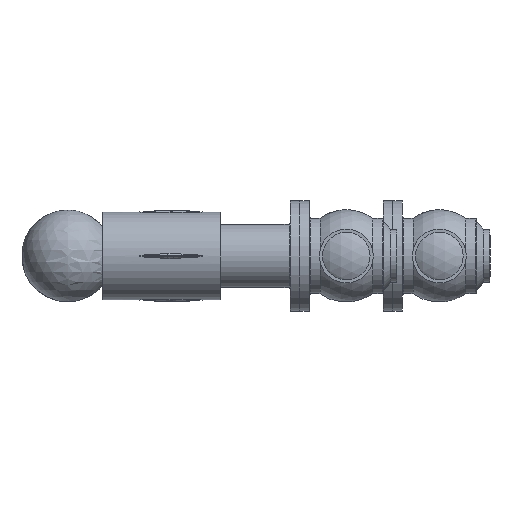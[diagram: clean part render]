
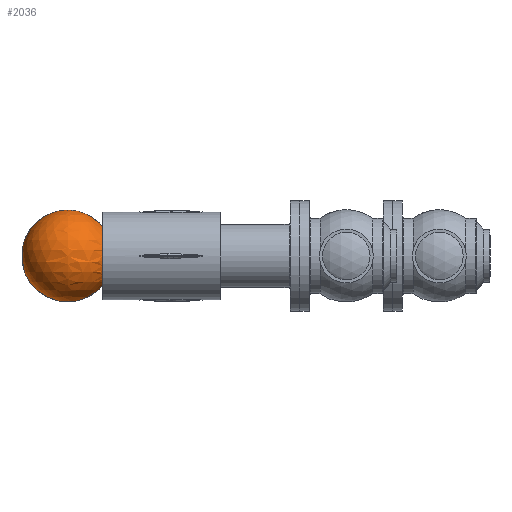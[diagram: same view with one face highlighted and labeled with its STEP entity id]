
A CAD part, left-side view. The second image highlights one B-rep face of the part: STEP entity #2036.
In plain terms, the highlighted spherical face has radius 72.5 mm.
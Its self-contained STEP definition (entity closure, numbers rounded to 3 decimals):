
#123=SPHERICAL_SURFACE('',#2362,72.5);
#246=FACE_BOUND('',#556,.T.);
#431=FACE_OUTER_BOUND('',#555,.T.);
#555=EDGE_LOOP('',(#1564,#1565));
#556=EDGE_LOOP('',(#1566));
#693=CIRCLE('',#2363,72.5);
#694=CIRCLE('',#2364,46.648);
#917=VERTEX_POINT('',#3872);
#918=VERTEX_POINT('',#3873);
#919=VERTEX_POINT('',#3875);
#1165=EDGE_CURVE('',#917,#918,#693,.T.);
#1166=EDGE_CURVE('',#919,#919,#694,.T.);
#1564=ORIENTED_EDGE('',*,*,#1165,.T.);
#1565=ORIENTED_EDGE('',*,*,#1165,.F.);
#1566=ORIENTED_EDGE('',*,*,#1166,.F.);
#2036=ADVANCED_FACE('',(#431,#246),#123,.T.);
#2362=AXIS2_PLACEMENT_3D('',#3871,#2820,#2821);
#2363=AXIS2_PLACEMENT_3D('',#3874,#2822,#2823);
#2364=AXIS2_PLACEMENT_3D('',#3876,#2824,#2825);
#2820=DIRECTION('center_axis',(0.,0.,1.));
#2821=DIRECTION('ref_axis',(1.,0.,0.));
#2822=DIRECTION('center_axis',(0.,-1.,0.));
#2823=DIRECTION('ref_axis',(-1.,0.,0.));
#2824=DIRECTION('center_axis',(0.,-1.,0.));
#2825=DIRECTION('ref_axis',(1.,0.,0.));
#3871=CARTESIAN_POINT('Origin',(150.,266.5,0.));
#3872=CARTESIAN_POINT('',(150.,266.5,72.5));
#3873=CARTESIAN_POINT('',(150.,266.5,-72.5));
#3874=CARTESIAN_POINT('Origin',(150.,266.5,0.));
#3875=CARTESIAN_POINT('',(196.648,211.,0.));
#3876=CARTESIAN_POINT('Origin',(150.,211.,0.));
